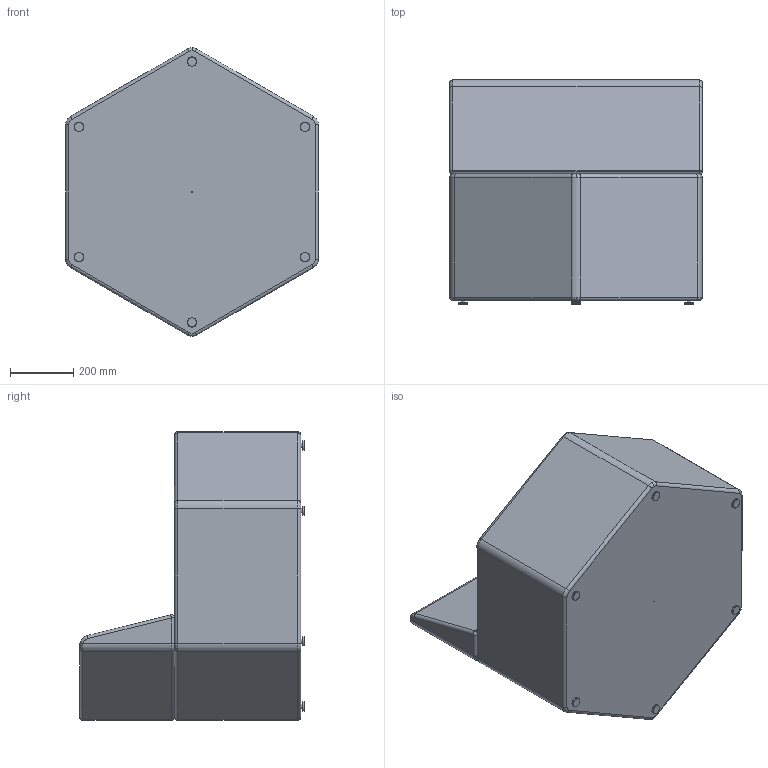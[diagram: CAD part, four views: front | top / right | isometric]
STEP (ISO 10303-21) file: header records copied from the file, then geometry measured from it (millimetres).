
FILE_DESCRIPTION (( 'STEP AP203' ), '1' );
FILE_NAME ('HEXA BACK.STEP', '2018-11-09T12:54:36', ( '' ), ( '' ), 'SwSTEP 2.0', 'SolidWorks 2017', '' );
FILE_SCHEMA (( 'CONFIG_CONTROL_DESIGN' ));
Length unit declared in the file: millimetre
Products named in the file (1): HEXA BACK
Bounding box: 800 x 711 x 914.48 mm (x, y, z)
Volume: 266660649.9 mm3; surface area: 3042355.9 mm2
Topology: 8 solids, 8 shells, 145 faces, 296 edges, 172 vertices
Faces by surface type: cylinder 60, torus 46, plane 34, sphere 3, bspline 2
Entity records: 3904 total; most frequent: DIRECTION 777, CARTESIAN_POINT 658, ORIENTED_EDGE 588, AXIS2_PLACEMENT_3D 343, EDGE_CURVE 294, CIRCLE 199, VERTEX_POINT 172, EDGE_LOOP 152
